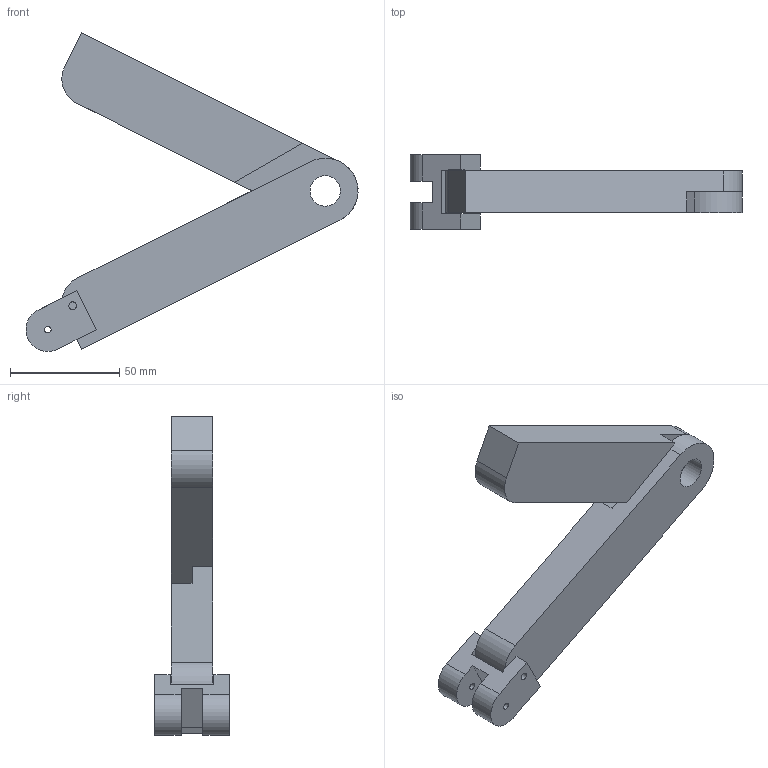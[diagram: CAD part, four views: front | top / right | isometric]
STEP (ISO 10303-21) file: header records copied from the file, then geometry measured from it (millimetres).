
FILE_DESCRIPTION(/* description */ (''),/* implementation_level */ '2;1');
FILE_NAME(/* name */ 'C:/Users/ramar/Desktop/asofij/A Arms v16.step',/* time_stamp */ '2021-02-07T11:44:00-06:00',/* author */ (''),/* organization */ (''),/* preprocessor_version */ 'ST-DEVELOPER v18.1',/* originating_system */ 'Autodesk Translation Framework v9.7.1.1290',/* authorisation */ '');
FILE_SCHEMA (('AUTOMOTIVE_DESIGN { 1 0 10303 214 3 1 1 }'));
Length unit declared in the file: millimetre
Products named in the file (1): A  Arms
Bounding box: 151.96 x 34.1 x 145.97 mm (x, y, z)
Volume: 149310.1 mm3; surface area: 33714.9 mm2
Topology: 3 solids, 3 shells, 38 faces, 96 edges, 64 vertices
Faces by surface type: plane 26, cylinder 12
Full cylindrical faces by diameter (mm): 3 x2, 3.5 x2, 13.97 x2
Entity records: 1199 total; most frequent: CARTESIAN_POINT 199, DIRECTION 198, ORIENTED_EDGE 192, EDGE_CURVE 96, LINE 72, VECTOR 72, VERTEX_POINT 64, AXIS2_PLACEMENT_3D 63
